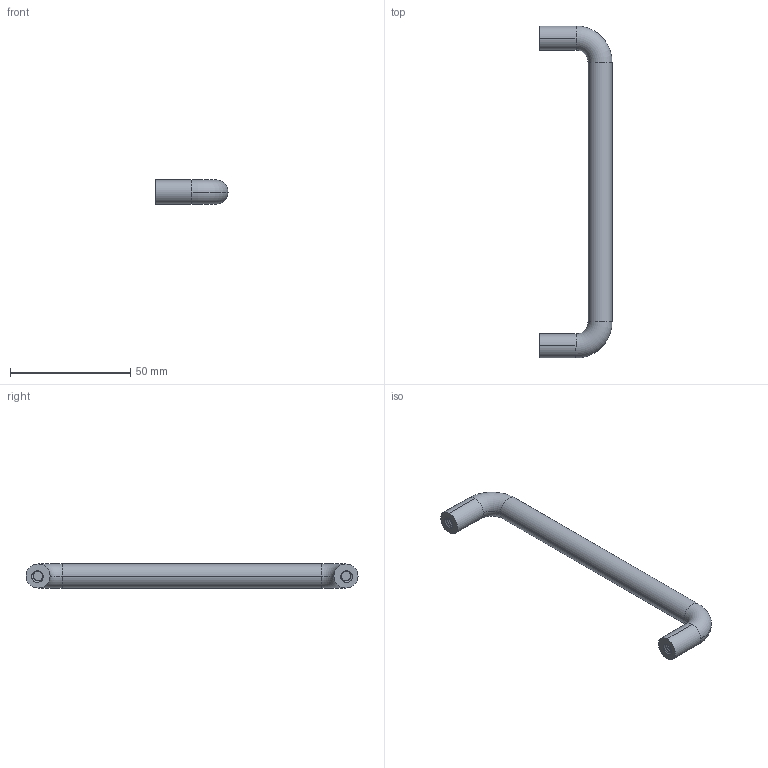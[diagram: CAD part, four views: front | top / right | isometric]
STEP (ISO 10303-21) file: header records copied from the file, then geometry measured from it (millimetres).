
FILE_DESCRIPTION (( 'STEP AP203' ), '1' );
FILE_NAME ('195-CE-HDR-128.STEP', '2015-07-09T09:21:29', ( '' ), ( '' ), 'SwSTEP 2.0', 'SolidWorks 2013', '' );
FILE_SCHEMA (( 'CONFIG_CONTROL_DESIGN' ));
Length unit declared in the file: millimetre
Products named in the file (1): 195-CE-HDR-128
Bounding box: 30 x 138 x 10 mm (x, y, z)
Volume: 13135.4 mm3; surface area: 5734.3 mm2
Topology: 1 solids, 1 shells, 38 faces, 98 edges, 64 vertices
Faces by surface type: cylinder 24, plane 6, torus 4, bspline 4
Entity records: 2227 total; most frequent: CARTESIAN_POINT 1333, ORIENTED_EDGE 196, DIRECTION 152, EDGE_CURVE 98, VERTEX_POINT 64, AXIS2_PLACEMENT_3D 61, EDGE_LOOP 40, FACE_OUTER_BOUND 38
